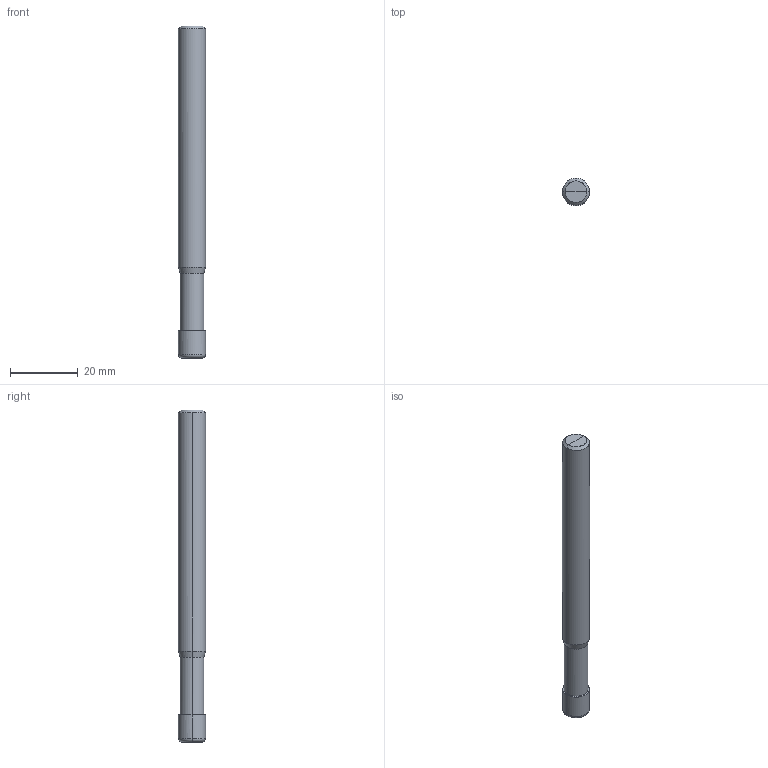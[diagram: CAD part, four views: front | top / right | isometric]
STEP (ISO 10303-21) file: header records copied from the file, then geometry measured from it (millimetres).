
FILE_DESCRIPTION(/* description */ (''),/* implementation_level */ '2;1');
FILE_NAME(/*name*/ '2001-8-1.0R',/*time_stamp*/'2021-3-22T12:31:16',/*author*/ ('ISBE GmbH'),/*organization*/ ('ISBE GmbH'),/*preprocessor_version*/ 'STEP IO v1.0',/*originating_system*/ '',/*authorisation*/ '');
FILE_SCHEMA (('AUTOMOTIVE_DESIGN'));
Length unit declared in the file: millimetre
Products named in the file (1): Document
Bounding box: 8 x 7.99 x 98.07 mm (x, y, z)
Surface area: 2579 mm2 (no closed solid volume)
Topology: 0 solids, 20 shells, 20 faces, 82 edges, 76 vertices
Faces by surface type: bspline 20
Entity records: 703 total; most frequent: CARTESIAN_POINT 348, VERTEX_POINT 72, EDGE_CURVE 72, ORIENTED_EDGE 72, EDGE_LOOP 20, FACE_OUTER_BOUND 20, ADVANCED_FACE 20, DIRECTION 16
